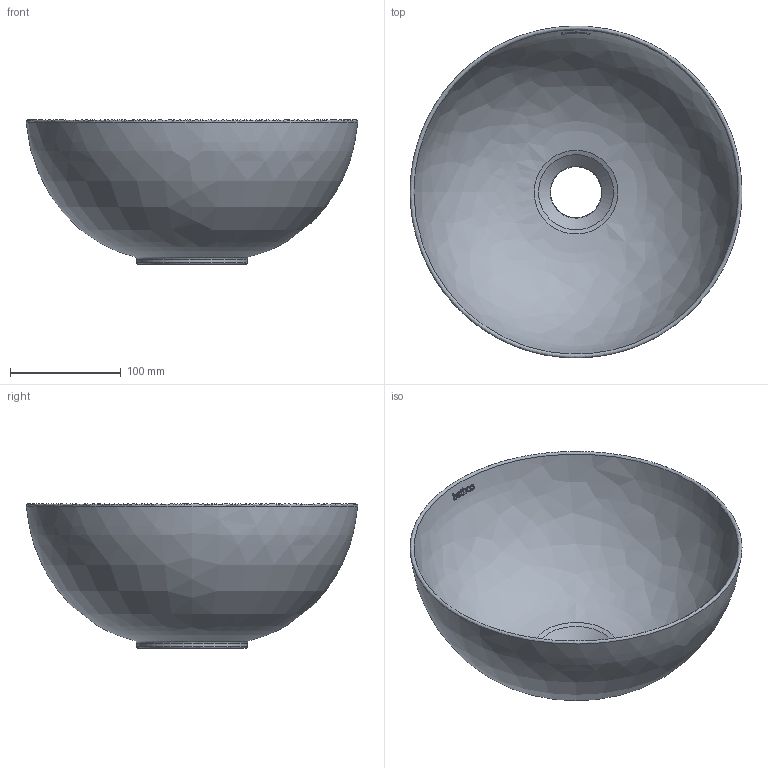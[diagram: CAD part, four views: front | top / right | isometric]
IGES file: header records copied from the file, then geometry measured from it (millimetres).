
Global section: file name: D:\Renovando Conceptos\Trabajos Varios\BathCo\47 Biblioteca Lavabos 3D\4914_Dakar\EXP\4914_Dakar.igs; native system: Rhinoceros ( May  7 2021 ); preprocessor: Trout Lake IGES 012 May  7 2021; date: 220126.163958; units: millimetre
Bounding box: 299.65 x 299.58 x 130 mm (x, y, z)
Surface area: 247134.8 mm2 (no closed solid volume)
Topology: 0 solids, 0 shells, 107 faces, 1101 edges, 1081 vertices
Faces by surface type: bspline 107
